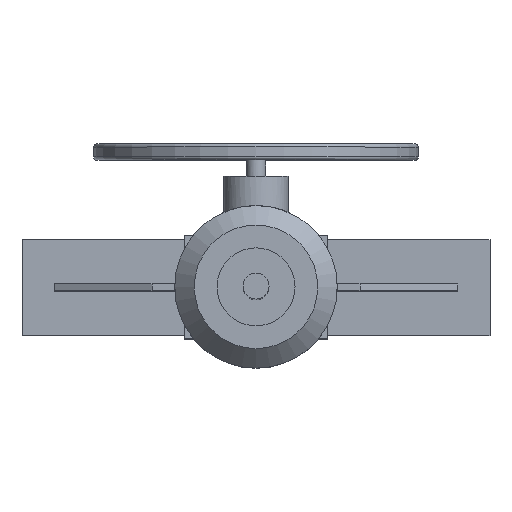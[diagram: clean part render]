
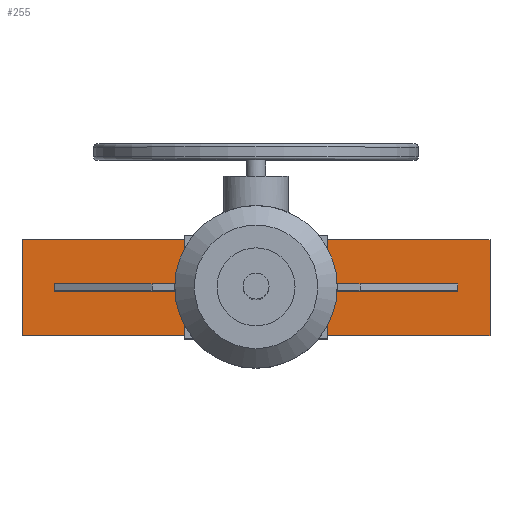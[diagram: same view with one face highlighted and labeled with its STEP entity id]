
A CAD part, top view. The second image highlights one B-rep face of the part: STEP entity #255.
In plain terms, the highlighted planar face has unit normal (0, 0, 1).
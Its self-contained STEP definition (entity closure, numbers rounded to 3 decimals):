
#255=ADVANCED_FACE('',(#2450,#2452),#2454,.T.);
#2450=FACE_BOUND('',#2451,.T.);
#2451=EDGE_LOOP('',(#4318,#4319,#4320,#4321,#4322,#4323,#4324,#4325));
#2452=FACE_BOUND('',#2453,.T.);
#2453=EDGE_LOOP('',(#4326,#4327,#4328,#4329));
#2454=PLANE('',#2455);
#2455=AXIS2_PLACEMENT_3D('',#2456,#2457,#2458);
#2456=CARTESIAN_POINT('',(0.,0.,600.));
#2457=DIRECTION('',(0.,0.,1.));
#2458=DIRECTION('',(1.,0.,0.));
#4318=ORIENTED_EDGE('',*,*,#5354,.F.);
#4319=ORIENTED_EDGE('',*,*,#5352,.T.);
#4320=ORIENTED_EDGE('',*,*,#5361,.T.);
#4321=ORIENTED_EDGE('',*,*,#5343,.T.);
#4322=ORIENTED_EDGE('',*,*,#5357,.F.);
#4323=ORIENTED_EDGE('',*,*,#5347,.T.);
#4324=ORIENTED_EDGE('',*,*,#5362,.T.);
#4325=ORIENTED_EDGE('',*,*,#5348,.T.);
#4326=ORIENTED_EDGE('',*,*,#5363,.F.);
#4327=ORIENTED_EDGE('',*,*,#5364,.F.);
#4328=ORIENTED_EDGE('',*,*,#5365,.F.);
#4329=ORIENTED_EDGE('',*,*,#5366,.F.);
#5343=EDGE_CURVE('',#5917,#5885,#5918,.T.);
#5347=EDGE_CURVE('',#5901,#5923,#5925,.T.);
#5348=EDGE_CURVE('',#5926,#5907,#5927,.T.);
#5352=EDGE_CURVE('',#5891,#5932,#5934,.T.);
#5354=EDGE_CURVE('',#5891,#5907,#5936,.T.);
#5357=EDGE_CURVE('',#5901,#5885,#5940,.T.);
#5361=EDGE_CURVE('',#5932,#5917,#5947,.T.);
#5362=EDGE_CURVE('',#5923,#5926,#5948,.T.);
#5363=EDGE_CURVE('',#5949,#5950,#5951,.T.);
#5364=EDGE_CURVE('',#5952,#5949,#5953,.F.);
#5365=EDGE_CURVE('',#5954,#5952,#5955,.T.);
#5366=EDGE_CURVE('',#5950,#5954,#5956,.T.);
#5885=VERTEX_POINT('',#6873);
#5891=VERTEX_POINT('',#6885);
#5901=VERTEX_POINT('',#6907);
#5907=VERTEX_POINT('',#6919);
#5917=VERTEX_POINT('',#6943);
#5918=LINE('',#6944,#6945);
#5923=VERTEX_POINT('',#6955);
#5925=LINE('',#6959,#6960);
#5926=VERTEX_POINT('',#6962);
#5927=LINE('',#6963,#6964);
#5932=VERTEX_POINT('',#6974);
#5934=LINE('',#6978,#6979);
#5936=LINE('',#6984,#6985);
#5940=LINE('',#6995,#6996);
#5947=LINE('',#7163,#7164);
#5948=LINE('',#7166,#7167);
#5949=VERTEX_POINT('',#7169);
#5950=VERTEX_POINT('',#7170);
#5951=LINE('',#7171,#7172);
#5952=VERTEX_POINT('',#7174);
#5953=LINE('',#7175,#7176);
#5954=VERTEX_POINT('',#7178);
#5955=LINE('',#7179,#7180);
#5956=LINE('',#7182,#7183);
#6873=CARTESIAN_POINT('',(110.,74.,600.));
#6885=CARTESIAN_POINT('',(110.,-74.,600.));
#6907=CARTESIAN_POINT('',(-110.,74.,600.));
#6919=CARTESIAN_POINT('',(-110.,-74.,600.));
#6943=CARTESIAN_POINT('',(360.,74.,600.));
#6944=CARTESIAN_POINT('',(360.,74.,600.));
#6945=VECTOR('',#6946,1.);
#6946=DIRECTION('',(-1.,0.,0.));
#6955=CARTESIAN_POINT('',(-360.,74.,600.));
#6959=CARTESIAN_POINT('',(-110.,74.,600.));
#6960=VECTOR('',#6961,1.);
#6961=DIRECTION('',(-1.,0.,0.));
#6962=CARTESIAN_POINT('',(-360.,-74.,600.));
#6963=CARTESIAN_POINT('',(-360.,-74.,600.));
#6964=VECTOR('',#6965,1.);
#6965=DIRECTION('',(1.,0.,0.));
#6974=CARTESIAN_POINT('',(360.,-74.,600.));
#6978=CARTESIAN_POINT('',(110.,-74.,600.));
#6979=VECTOR('',#6980,1.);
#6980=DIRECTION('',(1.,0.,0.));
#6984=CARTESIAN_POINT('',(110.,-74.,600.));
#6985=VECTOR('',#6986,1.);
#6986=DIRECTION('',(-1.,0.,0.));
#6995=CARTESIAN_POINT('',(-110.,74.,600.));
#6996=VECTOR('',#6997,1.);
#6997=DIRECTION('',(1.,0.,0.));
#7163=CARTESIAN_POINT('',(360.,-74.,600.));
#7164=VECTOR('',#7165,1.);
#7165=DIRECTION('',(0.,1.,0.));
#7166=CARTESIAN_POINT('',(-360.,74.,600.));
#7167=VECTOR('',#7168,1.);
#7168=DIRECTION('',(0.,-1.,0.));
#7169=CARTESIAN_POINT('',(-310.,5.,600.));
#7170=CARTESIAN_POINT('',(-310.,-5.,600.));
#7171=CARTESIAN_POINT('',(-310.,5.,600.));
#7172=VECTOR('',#7173,1.);
#7173=DIRECTION('',(0.,-1.,0.));
#7174=CARTESIAN_POINT('',(310.,5.,600.));
#7175=CARTESIAN_POINT('',(-310.,5.,600.));
#7176=VECTOR('',#7177,1.);
#7177=DIRECTION('',(1.,0.,0.));
#7178=CARTESIAN_POINT('',(310.,-5.,600.));
#7179=CARTESIAN_POINT('',(310.,-5.,600.));
#7180=VECTOR('',#7181,1.);
#7181=DIRECTION('',(0.,1.,0.));
#7182=CARTESIAN_POINT('',(-310.,-5.,600.));
#7183=VECTOR('',#7184,1.);
#7184=DIRECTION('',(1.,0.,0.));
